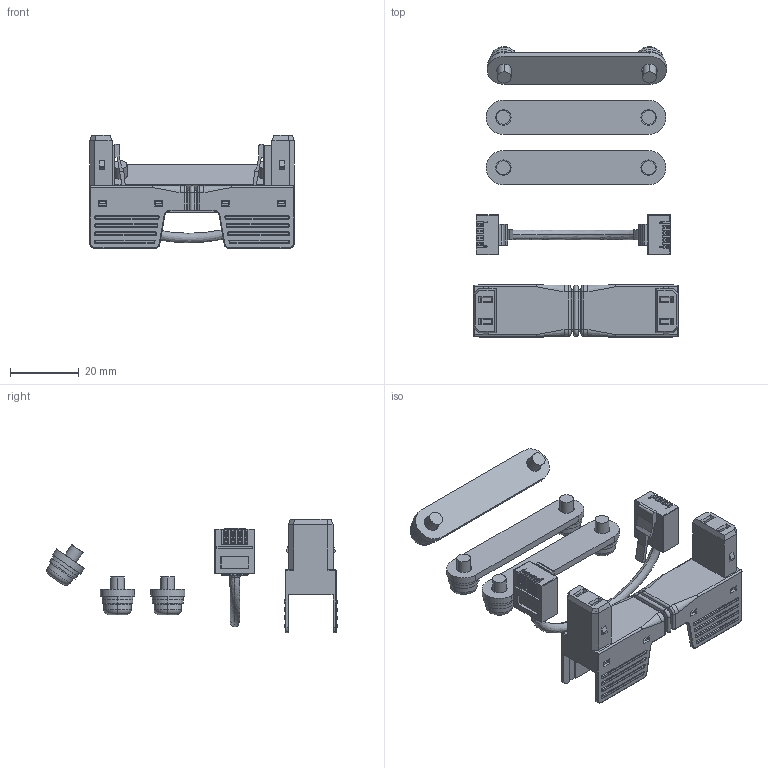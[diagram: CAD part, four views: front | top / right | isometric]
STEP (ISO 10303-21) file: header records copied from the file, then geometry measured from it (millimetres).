
FILE_DESCRIPTION((''),'2;1');
FILE_NAME('9500-1048_MULTI_AXIS_OPT-KIT-ET','2026-05-21T13:41:09',('owenrh01'),(''),'CREO PARAMETRIC BY PTC INC, 2023154','CREO PARAMETRIC BY PTC INC, 2023154','');
FILE_SCHEMA(('AP242_MANAGED_MODEL_BASED_3D_ENGINEERING_MIM_LF { 1 0 10303 442 1 1 4 }'));
Products named in the file (1): 9500-1048_MULTI_AXIS_OPT-KIT-ET
Bounding box: 59.7 x 84.85 x 33.05 mm (x, y, z)
Volume: 12437.9 mm3; surface area: 21632.9 mm2
Topology: 12 solids, 12 shells, 1644 faces, 4280 edges, 2642 vertices
Faces by surface type: plane 832, cylinder 531, sphere 80, extrusion 67, torus 66, cone 50, bspline 18
Entity records: 64013 total; most frequent: CARTESIAN_POINT 11923, ORIENTED_EDGE 8400, DIRECTION 8363, EDGE_CURVE 4200, VECTOR 2833, LINE 2766, AXIS2_PLACEMENT_3D 2765, VERTEX_POINT 2642
